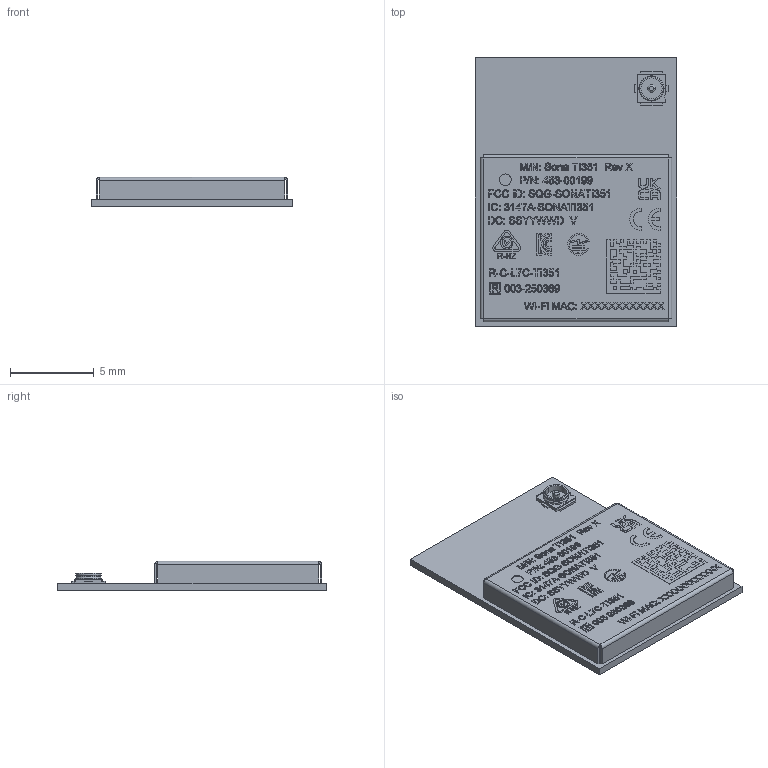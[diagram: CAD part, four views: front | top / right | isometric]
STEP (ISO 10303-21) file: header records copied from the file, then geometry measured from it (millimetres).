
FILE_DESCRIPTION (( 'STEP AP214' ), '1' );
FILE_NAME ('453-00199.STEP', '2026-05-25T10:42:39', ( '' ), ( '' ), 'SwSTEP 2.0', 'SolidWorks 2025', '' );
FILE_SCHEMA (( 'AUTOMOTIVE_DESIGN' ));
Length unit declared in the file: millimetre
Products named in the file (2): 940-00002-11117752_laser; 453-00199
Assembly tree (1 placements, depth 2):
  453-00199
    940-00002-11117752_laser
Bounding box: 12 x 16 x 1.75 mm (x, y, z)
Volume: 126.4 mm3; surface area: 1043 mm2
Topology: 170 solids, 170 shells, 4130 faces, 10282 edges, 6505 vertices
Faces by surface type: plane 2680, bspline 810, cylinder 432, sphere 200, cone 6, torus 2
Entity records: 195842 total; most frequent: CARTESIAN_POINT 64239, ORIENTED_EDGE 20164, DIRECTION 16194, EDGE_CURVE 10082, LINE 7454, VECTOR 7454, VERTEX_POINT 6505, AXIS2_PLACEMENT_3D 4370
